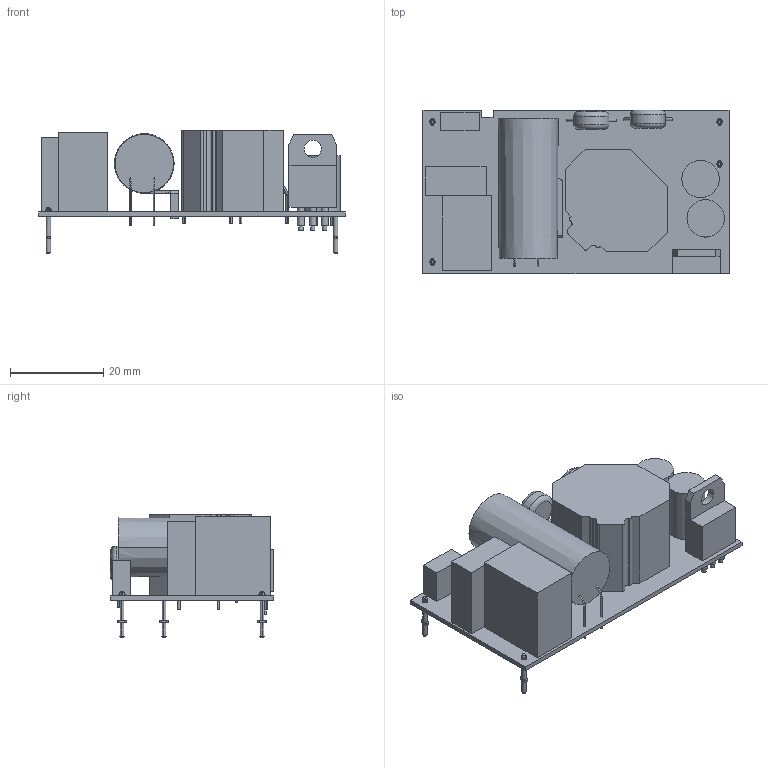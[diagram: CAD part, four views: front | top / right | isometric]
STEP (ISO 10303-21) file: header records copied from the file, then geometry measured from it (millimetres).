
FILE_DESCRIPTION(('Creo Elements/Direct Modeling STEP Export'),'2;1');
FILE_NAME('MFM-30-244.stp','2020-06-15T20:25:48',(''),(''),'PTC Creo Elements/Direct Modeling STEP processor for AP214 (Solid Model)','PTC Creo Elements/Direct Modeling 19.0E 27-Jun-2016 (C) Parametric Technology GmbH','');
FILE_SCHEMA(('AUTOMOTIVE_DESIGN { 1 0 10303 214 1 1 1 1 }'));
Length unit declared in the file: millimetre
Products named in the file (24): 11_PRT_1.PRT; 11_PRT.PRT; SS_PRT.PRT; C5.ASM; C1; FS1; C106.PRT; TF; Q1.PRT; lf1; C105; C3; C4; CUSZ015; PART; P; PCB-MPM-30; PCB-MPM30; RY100004; RY100004.1; RY100004.2; RY100004.3; PIN; MFM-30
Assembly tree (23 placements, depth 4):
  MFM-30
    PIN
      RY100004.3
      RY100004.2
      RY100004.1
      RY100004
    PCB-MPM30
      PCB-MPM-30
        P
    PART
      CUSZ015
      C4
      C3
      C105
      lf1
      Q1.PRT
      TF
      C106.PRT
      FS1
      C1
      C5.ASM
        SS_PRT.PRT
        11_PRT.PRT
        11_PRT_1.PRT
Bounding box: 65.5 x 35 x 26.5 mm (x, y, z)
Volume: 19791.1 mm3; surface area: 12837.8 mm2
Topology: 18 solids, 18 shells, 364 faces, 853 edges, 547 vertices
Faces by surface type: plane 176, cylinder 126, cone 50, torus 12
Entity records: 10951 total; most frequent: CARTESIAN_POINT 2171, ORIENTED_EDGE 1706, DIRECTION 1680, EDGE_CURVE 853, AXIS2_PLACEMENT_3D 636, VERTEX_POINT 547, VECTOR 408, LINE 408
